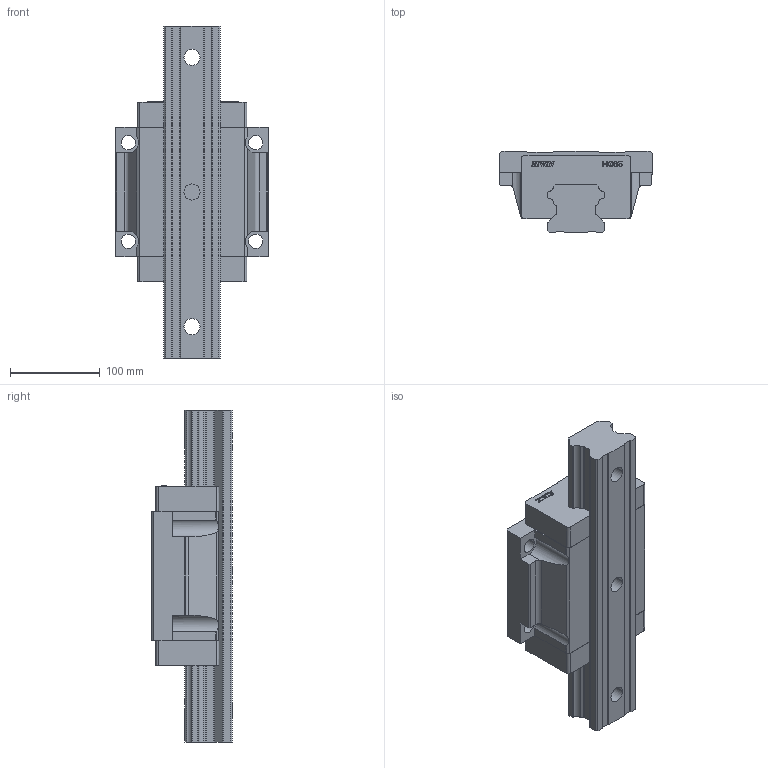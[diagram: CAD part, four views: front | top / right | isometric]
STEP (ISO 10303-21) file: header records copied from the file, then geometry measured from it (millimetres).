
FILE_DESCRIPTION((''),'2;1');
FILE_NAME('HGW65_ASM','2006-08-23T',('lansro'),(''),'PRO/ENGINEER BY PARAMETRIC TECHNOLOGY CORPORATION, 2004360','PRO/ENGINEER BY PARAMETRIC TECHNOLOGY CORPORATION, 2004360','');
FILE_SCHEMA(('CONFIG_CONTROL_DESIGN'));
Length unit declared in the file: millimetre
Products named in the file (3): HGW65; HGR65; HGW65_ASM
Assembly tree (2 placements, depth 2):
  HGW65_ASM
    HGW65
    HGR65
Bounding box: 170 x 90 x 370 mm (x, y, z)
Volume: 2629965.8 mm3; surface area: 232657 mm2
Topology: 2 solids, 2 shells, 469 faces, 1348 edges, 896 vertices
Faces by surface type: plane 356, extrusion 60, cylinder 53
Entity records: 15582 total; most frequent: CARTESIAN_POINT 3323, ORIENTED_EDGE 2696, DIRECTION 2210, EDGE_CURVE 1348, VECTOR 1162, LINE 1102, VERTEX_POINT 896, AXIS2_PLACEMENT_3D 524
